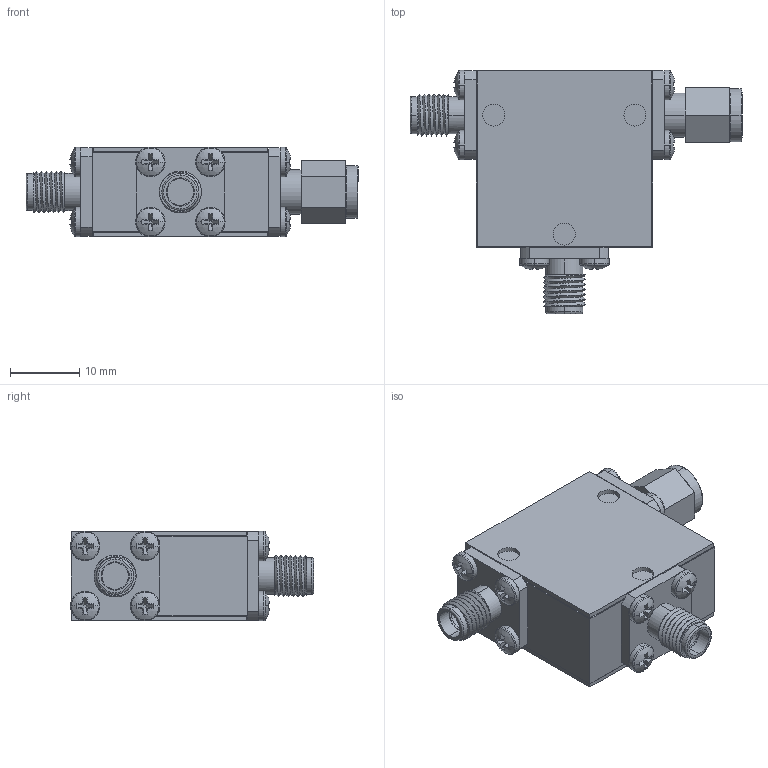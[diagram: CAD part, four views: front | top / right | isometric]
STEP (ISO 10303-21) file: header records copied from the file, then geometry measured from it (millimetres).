
FILE_DESCRIPTION (( 'STEP AP214' ), '1' );
FILE_NAME ('Package 3-2 Circ FMF - Cryo Unhielded.STEP', '2023-12-19T23:47:16', ( '' ), ( '' ), 'SwSTEP 2.0', 'SolidWorks 2016', '' );
FILE_SCHEMA (( 'AUTOMOTIVE_DESIGN' ));
Length unit declared in the file: inch
Products named in the file (6): Delta SMA-Female 0.500 flange Threaded; Package 3-2 Circ FMF - Cryo Unhielded; pan cross head_ai_CR-PHMS 0.086-56x0.125x0.125-N; Package Size 3; WR048; Delta SMA-Male
Assembly tree (17 placements, depth 2):
  Package 3-2 Circ FMF - Cryo Unhielded
    Package Size 3
    Delta SMA-Female 0.500 flange Threaded  x2
    pan cross head_ai_CR-PHMS 0.086-56x0.125x0.125-N  x12
    Delta SMA-Male
    WR048
Bounding box: 47.8 x 35.01 x 12.88 mm (x, y, z)
Volume: 9566.8 mm3; surface area: 8620.3 mm2
Topology: 17 solids, 17 shells, 437 faces, 1000 edges, 618 vertices
Faces by surface type: plane 241, cylinder 132, torus 34, sphere 24, bspline 6
Entity records: 5473 total; most frequent: CARTESIAN_POINT 1486, DIRECTION 849, ORIENTED_EDGE 710, EDGE_CURVE 355, AXIS2_PLACEMENT_3D 340, VERTEX_POINT 227, EDGE_LOOP 192, CIRCLE 178
